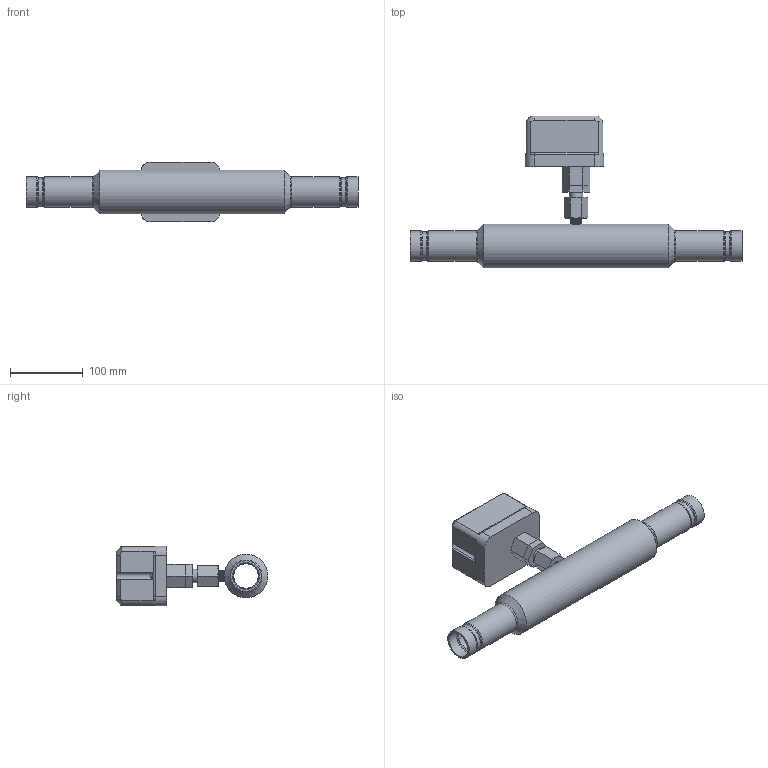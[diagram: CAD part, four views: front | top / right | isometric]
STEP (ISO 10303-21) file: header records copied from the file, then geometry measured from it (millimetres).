
FILE_DESCRIPTION(/* description */ (''),/* implementation_level */ '2;1');
FILE_NAME(/* name */ 'C:\Users\myoung\Box\ECS CAD Library\ECS Products\ILD-X Inline Detector\Export\ILD-1.25B10.stp',/* time_stamp */ '2020-05-05T15:25:01-05:00',/* author */ ('myoung'),/* organization */ (''),/* preprocessor_version */ 'ST-DEVELOPER v18',/* originating_system */ 'Autodesk Inventor 2020',/* authorisation */ '');
FILE_SCHEMA (('AUTOMOTIVE_DESIGN { 1 0 10303 214 3 1 1 }'));
Length unit declared in the file: inch
Products named in the file (1): ILD-1.25B10
Bounding box: 457.2 x 209.04 x 82.55 mm (x, y, z)
Volume: 1008546.2 mm3; surface area: 253459 mm2
Topology: 3 solids, 3 shells, 180 faces, 484 edges, 320 vertices
Faces by surface type: plane 67, cone 44, cylinder 35, torus 22, bspline 12
Full cylindrical faces by diameter (mm): 1.524 x2, 7.112 x1, 7.62 x2, 12.359 x1, 19.05 x1, 33.426 x2, 36.627 x3, 38.405 x1, 38.964 x2, 42.164 x6, 49.225 x1, 60.325 x1
Entity records: 16430 total; most frequent: CARTESIAN_POINT 11739, ORIENTED_EDGE 968, DIRECTION 906, EDGE_CURVE 484, AXIS2_PLACEMENT_3D 364, VERTEX_POINT 320, EDGE_LOOP 196, CIRCLE 190
